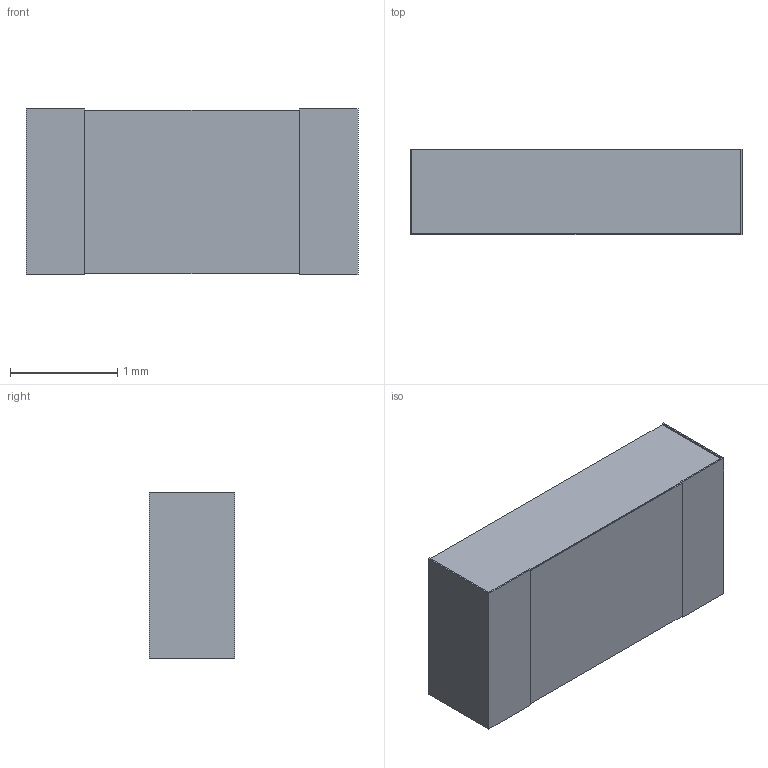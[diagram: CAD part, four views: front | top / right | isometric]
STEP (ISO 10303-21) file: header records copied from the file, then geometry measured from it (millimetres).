
FILE_DESCRIPTION(/* description */ (''),/* implementation_level */ '2;1');
FILE_NAME(/* name */ 'CSRF1206.stp',/* time_stamp */ '2025-08-04T15:34:43-04:00',/* author */ ('kkuhl'),/* organization */ (''),/* preprocessor_version */ 'ST-DEVELOPER v20',/* originating_system */ 'Autodesk Inventor 2025',/* authorisation */ '');
FILE_SCHEMA (('AUTOMOTIVE_DESIGN { 1 0 10303 214 3 1 1 }'));
Length unit declared in the file: millimetre
Products named in the file (1): CSRF1206
Bounding box: 3.1 x 0.8 x 1.55 mm (x, y, z)
Volume: 3.8 mm3; surface area: 31.2 mm2
Topology: 4 solids, 4 shells, 28 faces, 60 edges, 40 vertices
Faces by surface type: plane 28
Entity records: 839 total; most frequent: CARTESIAN_POINT 129, ORIENTED_EDGE 120, DIRECTION 118, LINE 60, VECTOR 60, EDGE_CURVE 60, VERTEX_POINT 40, STYLED_ITEM 32
